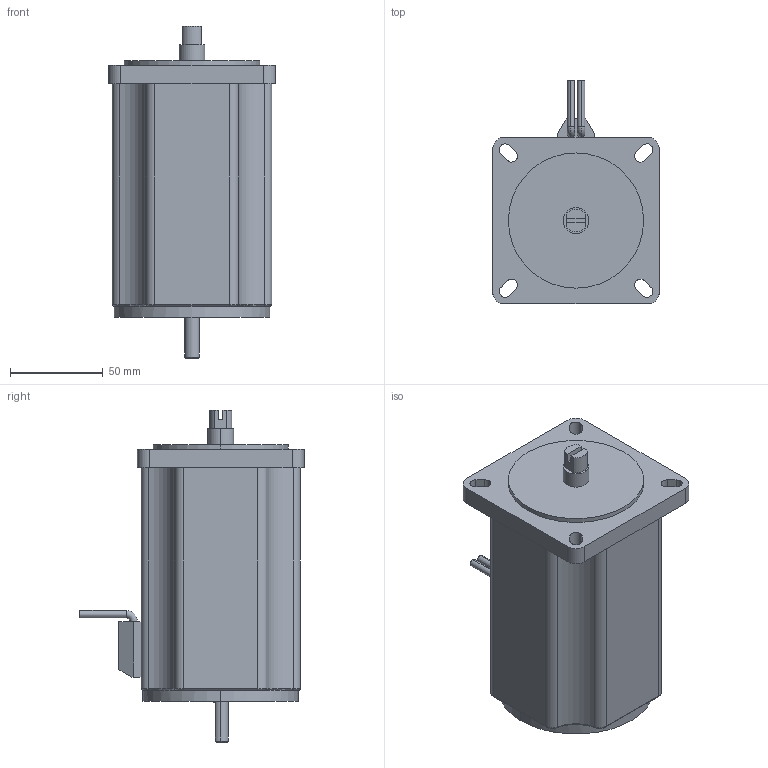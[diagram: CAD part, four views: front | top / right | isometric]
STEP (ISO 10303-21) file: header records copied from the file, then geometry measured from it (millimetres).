
FILE_DESCRIPTION (( 'STEP AP214' ), '1' );
FILE_NAME ('PBL86-80.STEP', '2024-01-03T11:09:47', ( '' ), ( '' ), 'SwSTEP 2.0', 'SolidWorks 2023', '' );
FILE_SCHEMA (( 'AUTOMOTIVE_DESIGN' ));
Length unit declared in the file: millimetre
Products named in the file (1): PBL86-80
Bounding box: 90 x 121 x 179.2 mm (x, y, z)
Volume: 871835.7 mm3; surface area: 66946 mm2
Topology: 2 solids, 2 shells, 156 faces, 369 edges, 224 vertices
Faces by surface type: cylinder 66, plane 59, torus 16, cone 15
Entity records: 6214 total; most frequent: DIRECTION 856, CARTESIAN_POINT 748, ORIENTED_EDGE 722, EDGE_CURVE 361, AXIS2_PLACEMENT_3D 340, VERTEX_POINT 224, CIRCLE 183, EDGE_LOOP 179
